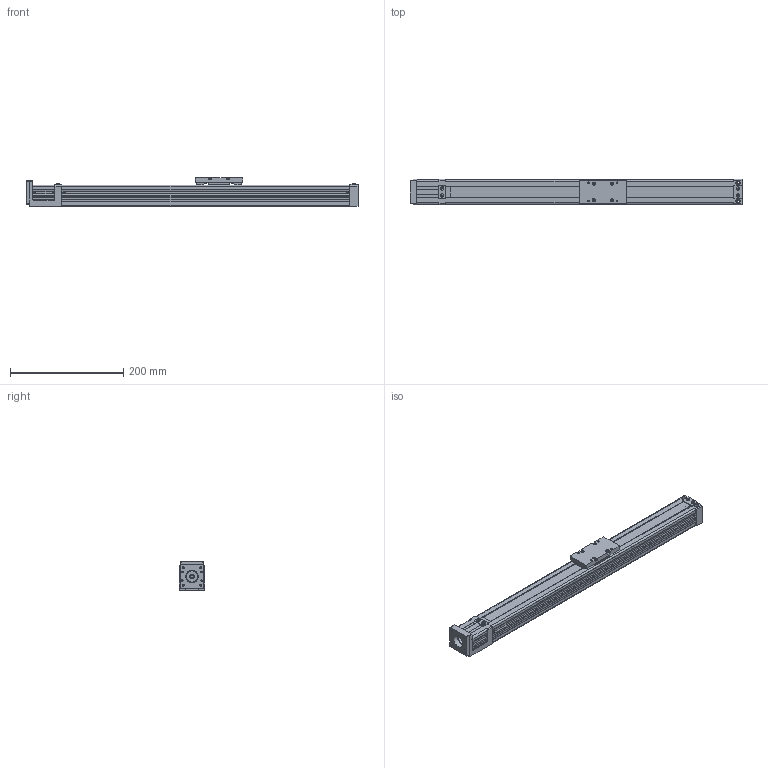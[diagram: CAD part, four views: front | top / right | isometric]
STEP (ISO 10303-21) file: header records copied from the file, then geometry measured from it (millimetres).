
FILE_DESCRIPTION((''),'2;1');
FILE_NAME('D:\製品 (図面)\カタログ用3D\SU部品\SU45×50\ダウンロード用\SU45×50-MB42\SU45×50-400-MB42.stp','2011-06-17T14:49:20',('Tsuchiya'),(''),'Autodesk Inventor 10','Autodesk Inventor 10','');
FILE_SCHEMA(('AUTOMOTIVE_DESIGN { 1 0 10303 214 1 1 1 1 }'));
Length unit declared in the file: millimetre
Products named in the file (3): SU45×50-400-MB42; SB45×50-400-MB42-1(1); SU45×50-T(1)
Assembly tree (2 placements, depth 2):
  SU45×50-400-MB42
    SB45×50-400-MB42-1(1)
    SU45×50-T(1)
Bounding box: 586 x 45 x 50 mm (x, y, z)
Volume: 348750.2 mm3; surface area: 232058 mm2
Topology: 2 solids, 2 shells, 688 faces, 1833 edges, 1208 vertices
Faces by surface type: plane 513, cylinder 79, bspline 65, torus 18, cone 13
Full cylindrical faces by diameter (mm): 2.459 x4, 3.242 x4, 3.4 x4, 4.5 x4, 5 x4, 6 x5, 7 x6, 8 x7, 10 x1, 20 x1, 22 x1, 30 x1
Entity records: 21261 total; most frequent: CARTESIAN_POINT 4780, ORIENTED_EDGE 3368, DIRECTION 3144, EDGE_CURVE 1684, VECTOR 1316, LINE 1316, VERTEX_POINT 1172, EDGE_LOOP 928
